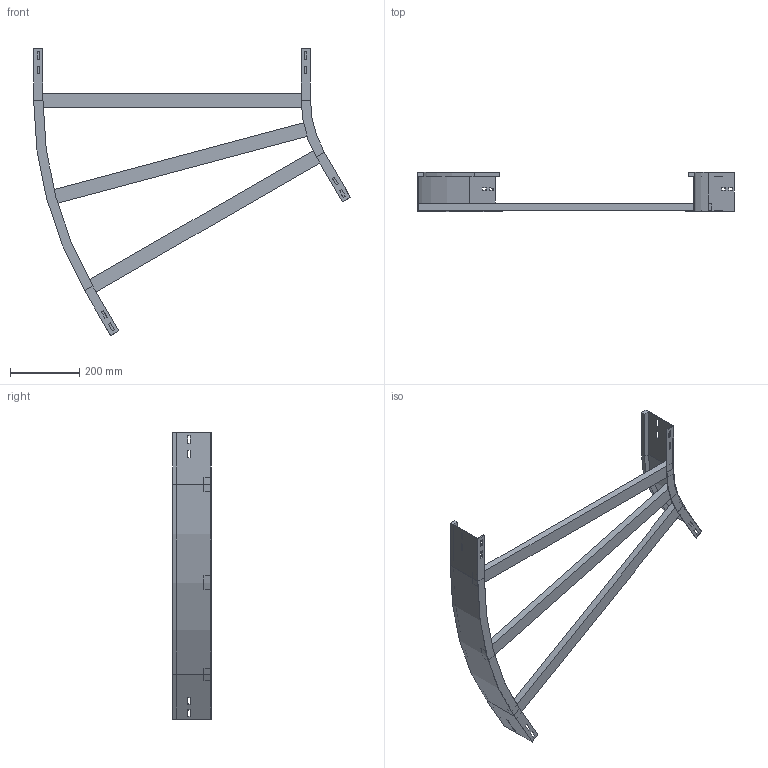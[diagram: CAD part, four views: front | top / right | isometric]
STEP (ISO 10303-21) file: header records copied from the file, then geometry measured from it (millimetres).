
FILE_DESCRIPTION (( 'STEP AP214' ), '1' );
FILE_NAME ('A2_12B3J800.step', '2025-02-21T15:09:12', ( '' ), ( '' ), 'SwSTEP 2.0', 'SolidWorks 2023', '' );
FILE_SCHEMA (( 'AUTOMOTIVE_DESIGN' ));
Length unit declared in the file: millimetre
Products named in the file (4): A2_12B3J800; A2_LONGH.INTERNO 30°_H112.5_R300; A2_LONGH.ESTERNO 30°_H112.5_R300+800; TRAVERSINO_800
Assembly tree (5 placements, depth 2):
  A2_12B3J800
    A2_LONGH.INTERNO 30°_H112.5_R300
    A2_LONGH.ESTERNO 30°_H112.5_R300+800
    TRAVERSINO_800  x3
Bounding box: 915.19 x 112.5 x 829.9 mm (x, y, z)
Volume: 2551880.9 mm3; surface area: 707178.9 mm2
Topology: 5 solids, 5 shells, 134 faces, 340 edges, 216 vertices
Faces by surface type: plane 126, cylinder 8
Entity records: 3821 total; most frequent: CARTESIAN_POINT 646, ORIENTED_EDGE 632, DIRECTION 592, EDGE_CURVE 316, VECTOR 300, LINE 300, VERTEX_POINT 200, EDGE_LOOP 154
